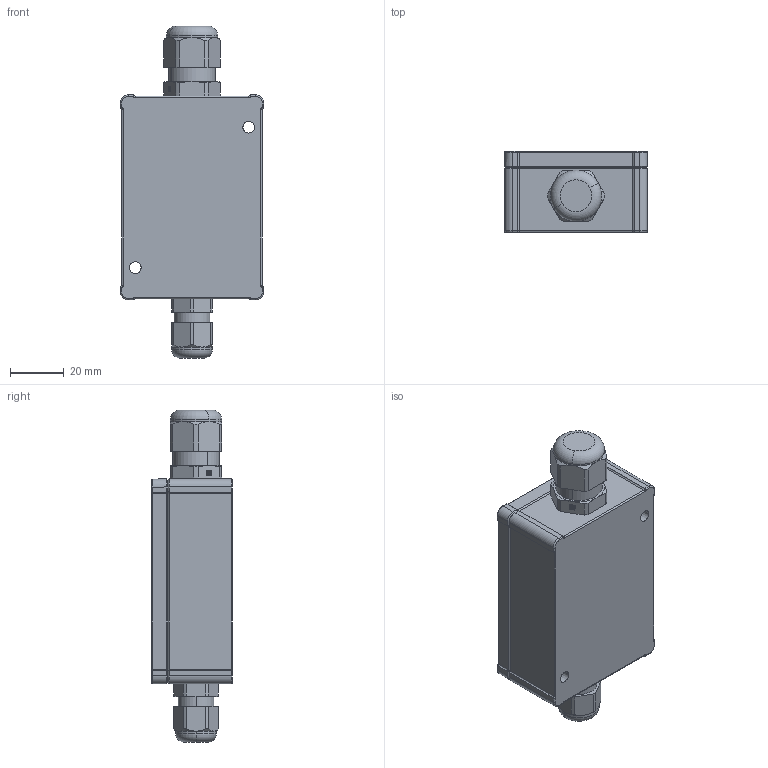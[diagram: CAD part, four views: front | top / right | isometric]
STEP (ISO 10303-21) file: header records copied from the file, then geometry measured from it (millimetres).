
FILE_DESCRIPTION((''),'2;1');
FILE_NAME('0000194176_SW0001','2020-03-02T11:43:47',('11000775'),(''),'CREO PARAMETRIC BY PTC INC, 2019030','CREO PARAMETRIC BY PTC INC, 2019030','');
FILE_SCHEMA(('AUTOMOTIVE_DESIGN { 1 0 10303 214 1 1 1 1 }'));
Length unit declared in the file: millimetre
Products named in the file (1): 0000194176_SW0001
Bounding box: 53 x 30 x 123 mm (x, y, z)
Volume: 124527.7 mm3; surface area: 20022.3 mm2
Topology: 1 solids, 1 shells, 573 faces, 1403 edges, 878 vertices
Faces by surface type: plane 279, cylinder 123, cone 68, bspline 36, extrusion 35, torus 32
Entity records: 33100 total; most frequent: CARTESIAN_POINT 10621, ORIENTED_EDGE 2806, DIRECTION 2548, PRESENTATION_STYLE_ASSIGNMENT 2016, STYLED_ITEM 1443, CURVE_STYLE 1442, EDGE_CURVE 1403, VERTEX_POINT 878
